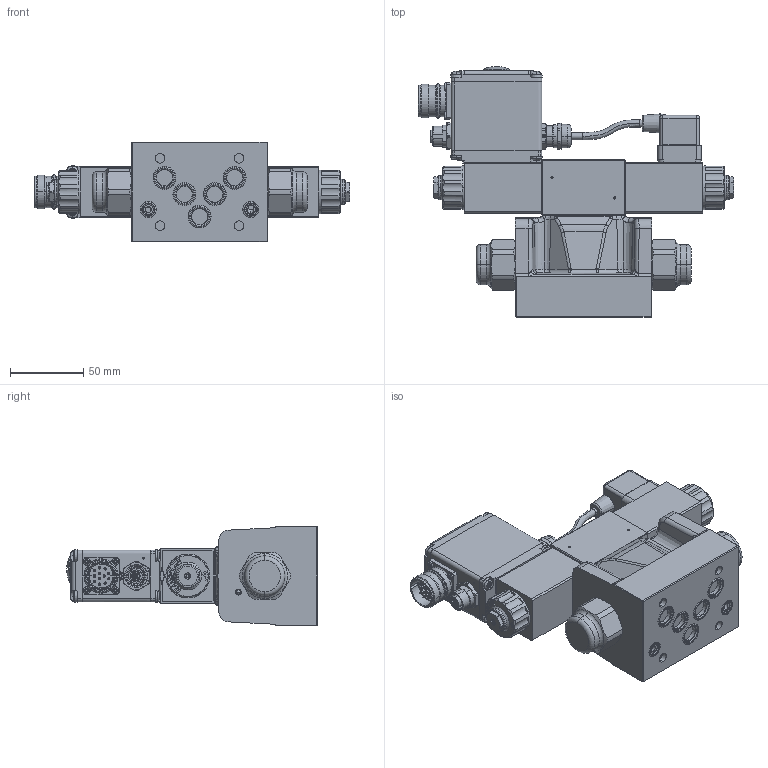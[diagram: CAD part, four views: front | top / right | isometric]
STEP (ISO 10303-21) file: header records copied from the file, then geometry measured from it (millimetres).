
FILE_DESCRIPTION (( 'STEP AP214' ), '1' );
FILE_NAME ('WVPFA10-4_3-ti_ae_xi_xe.STEP', '2018-12-21T08:32:34', ( '' ), ( '' ), 'SwSTEP 2.0', 'SolidWorks 2016', '' );
FILE_SCHEMA (( 'AUTOMOTIVE_DESIGN' ));
Length unit declared in the file: millimetre
Products named in the file (2): WVPFA10-4_3-ti_ae_xi_xe
Bounding box: 215.4 x 171.49 x 68 mm (x, y, z)
Volume: 799881.2 mm3; surface area: 122598.6 mm2
Topology: 33 solids, 73 shells, 5027 faces, 13427 edges, 8701 vertices
Faces by surface type: plane 2474, cylinder 1598, cone 358, torus 271, bspline 269, sphere 57
Entity records: 282572 total; most frequent: CARTESIAN_POINT 55634, ORIENTED_EDGE 34006, DIRECTION 31675, EDGE_CURVE 17003, VERTEX_POINT 11074, LINE 10817, VECTOR 10817, AXIS2_PLACEMENT_3D 10429
